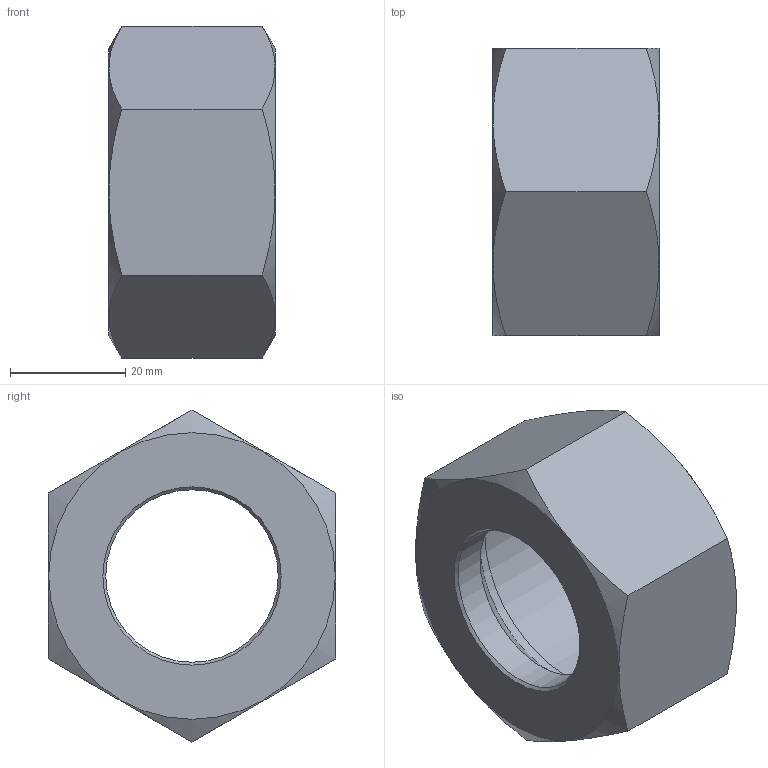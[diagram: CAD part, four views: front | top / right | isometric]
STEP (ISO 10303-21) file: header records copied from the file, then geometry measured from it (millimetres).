
FILE_DESCRIPTION( ( 'Unknown' ), '1' );
FILE_NAME( 'C:/Users/p.nanko/Desktop/3D SR/M30S.stp', 'Unknown', ( 'Peter Nanko' ), ( 'Armaturen Arndt' ), 'PSStep 14.0', 'Solid Edge ST4', ' ' );
FILE_SCHEMA( ( 'AUTOMOTIVE_DESIGN { 1 0 10303 214 1 1 1 1 }' ) );
Length unit declared in the file: millimetre
Products named in the file (1): 1
Bounding box: 29 x 50 x 57.73 mm (x, y, z)
Volume: 30567.7 mm3; surface area: 10782.1 mm2
Topology: 1 solids, 1 shells, 17 faces, 39 edges, 25 vertices
Faces by surface type: plane 9, cone 5, cylinder 3
Full cylindrical faces by diameter (mm): 30 x1, 39.835 x2
Entity records: 700 total; most frequent: CARTESIAN_POINT 224, DIRECTION 62, ORIENTED_EDGE 56, AXIS2_PLACEMENT_3D 28, EDGE_LOOP 28, EDGE_CURVE 28, VERTEX_POINT 22, FACE_OUTER_BOUND 20
